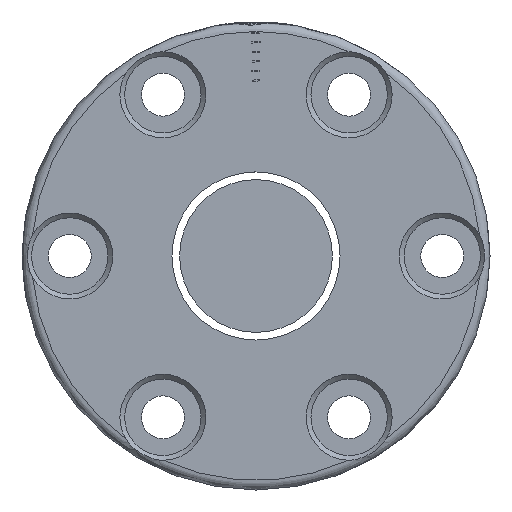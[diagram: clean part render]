
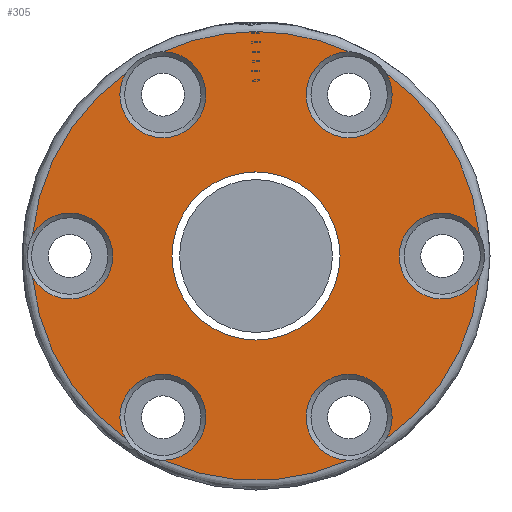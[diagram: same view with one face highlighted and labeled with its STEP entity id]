
A CAD part, left-side view. The second image highlights one B-rep face of the part: STEP entity #305.
In plain terms, the highlighted planar face has unit normal (-1, 0, 0).
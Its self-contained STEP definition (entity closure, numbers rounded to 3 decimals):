
#61 = DIRECTION ( 'NONE',  ( -1., 0., 0. ) ) ;
#78 = DIRECTION ( 'NONE',  ( 0., 0., 1. ) ) ;
#105 = DIRECTION ( 'NONE',  ( 0., 0., 1. ) ) ;
#133 = EDGE_CURVE ( 'NONE', #155, #2697, #1542, .T. ) ;
#140 = DIRECTION ( 'NONE',  ( -1., 0., 0. ) ) ;
#155 = VERTEX_POINT ( 'NONE', #2705 ) ;
#180 = DIRECTION ( 'NONE',  ( 1., 0., 0. ) ) ;
#195 = EDGE_CURVE ( 'NONE', #1134, #533, #3083, .T. ) ;
#199 = CIRCLE ( 'NONE', #2619, 23.5 ) ;
#206 = DIRECTION ( 'NONE',  ( 1., 0., 0. ) ) ;
#238 = CARTESIAN_POINT ( 'NONE',  ( -45., 23.391, 2.261 ) ) ;
#239 = EDGE_CURVE ( 'NONE', #533, #1596, #2629, .T. ) ;
#305 = ADVANCED_FACE ( 'NONE', ( #2574, #880 ), #1583, .T. ) ;
#314 = DIRECTION ( 'NONE',  ( 0., 0., 1. ) ) ;
#329 = DIRECTION ( 'NONE',  ( -1., 0., 0. ) ) ;
#352 = EDGE_CURVE ( 'NONE', #1171, #1339, #473, .T. ) ;
#421 = CIRCLE ( 'NONE', #826, 23.5 ) ;
#473 = CIRCLE ( 'NONE', #1988, 23.5 ) ;
#525 = AXIS2_PLACEMENT_3D ( 'NONE', #1155, #140, #2095 ) ;
#533 = VERTEX_POINT ( 'NONE', #238 ) ;
#596 = EDGE_CURVE ( 'NONE', #1052, #928, #421, .T. ) ;
#632 = ORIENTED_EDGE ( 'NONE', *, *, #2639, .T. ) ;
#725 = CARTESIAN_POINT ( 'NONE',  ( -45., -19.5, 0. ) ) ;
#728 = AXIS2_PLACEMENT_3D ( 'NONE', #1284, #1297, #2237 ) ;
#779 = AXIS2_PLACEMENT_3D ( 'NONE', #904, #180, #1162 ) ;
#784 = AXIS2_PLACEMENT_3D ( 'NONE', #2044, #1739, #2477 ) ;
#788 = ORIENTED_EDGE ( 'NONE', *, *, #1936, .T. ) ;
#826 = AXIS2_PLACEMENT_3D ( 'NONE', #1969, #2476, #78 ) ;
#832 = CIRCLE ( 'NONE', #1194, 4.5 ) ;
#860 = DIRECTION ( 'NONE',  ( 0., 0., 1. ) ) ;
#880 = FACE_BOUND ( 'NONE', #1324, .T. ) ;
#904 = CARTESIAN_POINT ( 'NONE',  ( -45., 9.75, 16.887 ) ) ;
#911 = ORIENTED_EDGE ( 'NONE', *, *, #2856, .T. ) ;
#915 = EDGE_CURVE ( 'NONE', #1522, #1052, #1396, .T. ) ;
#928 = VERTEX_POINT ( 'NONE', #3084 ) ;
#1033 = AXIS2_PLACEMENT_3D ( 'NONE', #3005, #1832, #1897 ) ;
#1052 = VERTEX_POINT ( 'NONE', #1669 ) ;
#1091 = DIRECTION ( 'NONE',  ( -1., 0., 0. ) ) ;
#1094 = EDGE_CURVE ( 'NONE', #1293, #1134, #1240, .T. ) ;
#1134 = VERTEX_POINT ( 'NONE', #2580 ) ;
#1155 = CARTESIAN_POINT ( 'NONE',  ( -45., 24.5, 0. ) ) ;
#1162 = DIRECTION ( 'NONE',  ( 0., 0., 1. ) ) ;
#1171 = VERTEX_POINT ( 'NONE', #1224 ) ;
#1194 = AXIS2_PLACEMENT_3D ( 'NONE', #725, #206, #2620 ) ;
#1224 = CARTESIAN_POINT ( 'NONE',  ( -45., -13.653, -19.127 ) ) ;
#1240 = CIRCLE ( 'NONE', #779, 4.5 ) ;
#1276 = DIRECTION ( 'NONE',  ( -1., 0., 0. ) ) ;
#1277 = CIRCLE ( 'NONE', #1683, 23.5 ) ;
#1284 = CARTESIAN_POINT ( 'NONE',  ( -45., 19.5, 0. ) ) ;
#1293 = VERTEX_POINT ( 'NONE', #2757 ) ;
#1297 = DIRECTION ( 'NONE',  ( 1., 0., 0. ) ) ;
#1320 = CARTESIAN_POINT ( 'NONE',  ( -45., 0., 0. ) ) ;
#1324 = EDGE_LOOP ( 'NONE', ( #2447 ) ) ;
#1328 = CARTESIAN_POINT ( 'NONE',  ( -45., 0., 0. ) ) ;
#1339 = VERTEX_POINT ( 'NONE', #1782 ) ;
#1356 = VERTEX_POINT ( 'NONE', #2496 ) ;
#1396 = CIRCLE ( 'NONE', #1033, 4.5 ) ;
#1485 = EDGE_CURVE ( 'NONE', #1339, #1356, #832, .T. ) ;
#1522 = VERTEX_POINT ( 'NONE', #2857 ) ;
#1528 = DIRECTION ( 'NONE',  ( 0., 0., 1. ) ) ;
#1542 = CIRCLE ( 'NONE', #1589, 4.5 ) ;
#1572 = DIRECTION ( 'NONE',  ( 1., 0., 0. ) ) ;
#1580 = DIRECTION ( 'NONE',  ( 1., 0., 0. ) ) ;
#1583 = PLANE ( 'NONE',  #525 ) ;
#1589 = AXIS2_PLACEMENT_3D ( 'NONE', #2945, #1572, #1528 ) ;
#1595 = AXIS2_PLACEMENT_3D ( 'NONE', #2071, #1580, #860 ) ;
#1596 = VERTEX_POINT ( 'NONE', #2402 ) ;
#1669 = CARTESIAN_POINT ( 'NONE',  ( -45., 9.738, -21.387 ) ) ;
#1683 = AXIS2_PLACEMENT_3D ( 'NONE', #1320, #61, #314 ) ;
#1701 = EDGE_CURVE ( 'NONE', #2132, #2132, #2731, .T. ) ;
#1739 = DIRECTION ( 'NONE',  ( 1., 0., 0. ) ) ;
#1782 = CARTESIAN_POINT ( 'NONE',  ( -45., -23.391, -2.261 ) ) ;
#1808 = CARTESIAN_POINT ( 'NONE',  ( -45., -9.738, 21.387 ) ) ;
#1824 = ORIENTED_EDGE ( 'NONE', *, *, #2571, .T. ) ;
#1832 = DIRECTION ( 'NONE',  ( 1., 0., 0. ) ) ;
#1872 = ORIENTED_EDGE ( 'NONE', *, *, #1485, .T. ) ;
#1897 = DIRECTION ( 'NONE',  ( 0., 0., 1. ) ) ;
#1936 = EDGE_CURVE ( 'NONE', #928, #1171, #2432, .T. ) ;
#1954 = CARTESIAN_POINT ( 'NONE',  ( -45., 0., 0. ) ) ;
#1969 = CARTESIAN_POINT ( 'NONE',  ( -45., 0., 0. ) ) ;
#1988 = AXIS2_PLACEMENT_3D ( 'NONE', #1954, #2653, #2156 ) ;
#2026 = ORIENTED_EDGE ( 'NONE', *, *, #133, .T. ) ;
#2044 = CARTESIAN_POINT ( 'NONE',  ( -45., 0., 0. ) ) ;
#2071 = CARTESIAN_POINT ( 'NONE',  ( -45., -9.75, -16.887 ) ) ;
#2075 = ORIENTED_EDGE ( 'NONE', *, *, #1094, .T. ) ;
#2095 = DIRECTION ( 'NONE',  ( 0., 0., 1. ) ) ;
#2123 = EDGE_LOOP ( 'NONE', ( #2075, #2772, #2230, #1824, #2968, #2140, #788, #2323, #1872, #632, #2026, #911 ) ) ;
#2132 = VERTEX_POINT ( 'NONE', #2848 ) ;
#2135 = AXIS2_PLACEMENT_3D ( 'NONE', #1328, #1091, #2282 ) ;
#2140 = ORIENTED_EDGE ( 'NONE', *, *, #596, .T. ) ;
#2156 = DIRECTION ( 'NONE',  ( 0., 0., 1. ) ) ;
#2172 = CIRCLE ( 'NONE', #2567, 23.5 ) ;
#2230 = ORIENTED_EDGE ( 'NONE', *, *, #239, .T. ) ;
#2237 = DIRECTION ( 'NONE',  ( 0., 0., 1. ) ) ;
#2242 = DIRECTION ( 'NONE',  ( 0., 0., 1. ) ) ;
#2282 = DIRECTION ( 'NONE',  ( 0., 0., 1. ) ) ;
#2323 = ORIENTED_EDGE ( 'NONE', *, *, #352, .T. ) ;
#2402 = CARTESIAN_POINT ( 'NONE',  ( -45., 23.391, -2.261 ) ) ;
#2432 = CIRCLE ( 'NONE', #1595, 4.5 ) ;
#2447 = ORIENTED_EDGE ( 'NONE', *, *, #1701, .T. ) ;
#2473 = CARTESIAN_POINT ( 'NONE',  ( -45., 0., 0. ) ) ;
#2476 = DIRECTION ( 'NONE',  ( -1., 0., 0. ) ) ;
#2477 = DIRECTION ( 'NONE',  ( 0., 0., -1. ) ) ;
#2489 = CARTESIAN_POINT ( 'NONE',  ( -45., 0., 0. ) ) ;
#2496 = CARTESIAN_POINT ( 'NONE',  ( -45., -23.391, 2.261 ) ) ;
#2567 = AXIS2_PLACEMENT_3D ( 'NONE', #2473, #1276, #2242 ) ;
#2571 = EDGE_CURVE ( 'NONE', #1596, #1522, #199, .T. ) ;
#2574 = FACE_OUTER_BOUND ( 'NONE', #2123, .T. ) ;
#2580 = CARTESIAN_POINT ( 'NONE',  ( -45., 13.653, 19.127 ) ) ;
#2619 = AXIS2_PLACEMENT_3D ( 'NONE', #2489, #329, #105 ) ;
#2620 = DIRECTION ( 'NONE',  ( 0., 0., 1. ) ) ;
#2629 = CIRCLE ( 'NONE', #728, 4.5 ) ;
#2639 = EDGE_CURVE ( 'NONE', #1356, #155, #1277, .T. ) ;
#2653 = DIRECTION ( 'NONE',  ( -1., 0., 0. ) ) ;
#2697 = VERTEX_POINT ( 'NONE', #1808 ) ;
#2705 = CARTESIAN_POINT ( 'NONE',  ( -45., -13.653, 19.127 ) ) ;
#2731 = CIRCLE ( 'NONE', #784, 8.8 ) ;
#2757 = CARTESIAN_POINT ( 'NONE',  ( -45., 9.738, 21.387 ) ) ;
#2772 = ORIENTED_EDGE ( 'NONE', *, *, #195, .T. ) ;
#2848 = CARTESIAN_POINT ( 'NONE',  ( -45., 0., -8.8 ) ) ;
#2856 = EDGE_CURVE ( 'NONE', #2697, #1293, #2172, .T. ) ;
#2857 = CARTESIAN_POINT ( 'NONE',  ( -45., 13.653, -19.127 ) ) ;
#2945 = CARTESIAN_POINT ( 'NONE',  ( -45., -9.75, 16.887 ) ) ;
#2968 = ORIENTED_EDGE ( 'NONE', *, *, #915, .T. ) ;
#3005 = CARTESIAN_POINT ( 'NONE',  ( -45., 9.75, -16.887 ) ) ;
#3083 = CIRCLE ( 'NONE', #2135, 23.5 ) ;
#3084 = CARTESIAN_POINT ( 'NONE',  ( -45., -9.738, -21.387 ) ) ;
